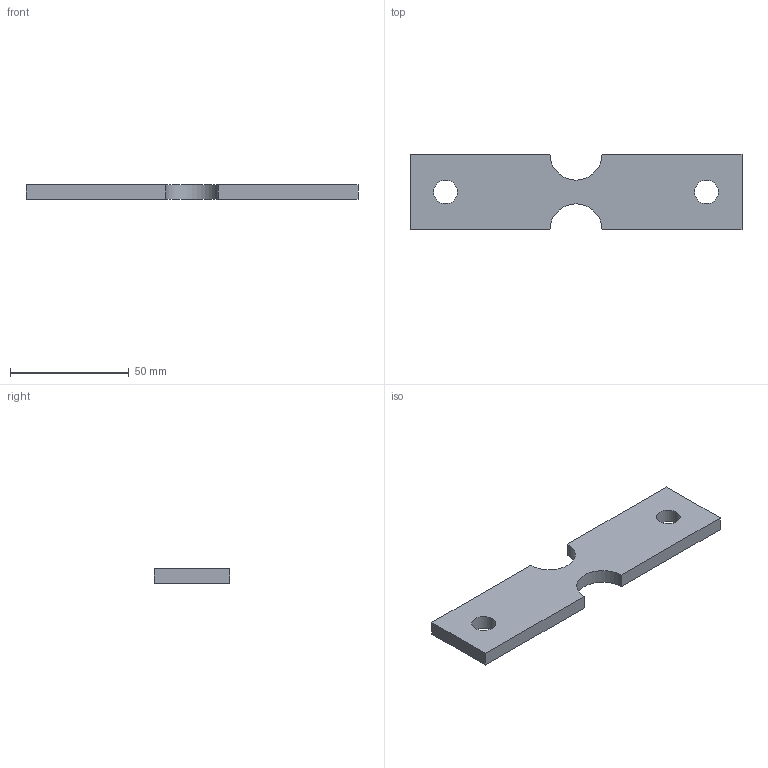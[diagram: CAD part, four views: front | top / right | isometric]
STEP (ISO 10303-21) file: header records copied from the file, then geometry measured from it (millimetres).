
FILE_DESCRIPTION(('FreeCAD Model'),'2;1');
FILE_NAME('Open CASCADE Shape Model','2026-11-03T10:07:26',('FreeCAD'),( 'FreeCAD'),'Open CASCADE STEP processor 7.8','FreeCAD','Unknown');
FILE_SCHEMA(('AUTOMOTIVE_DESIGN { 1 0 10303 214 1 1 1 1 }'));
Length unit declared in the file: millimetre
Products named in the file (1): Open CASCADE STEP translator 7.8 7
Bounding box: 140 x 32 x 6 mm (x, y, z)
Volume: 23656.7 mm3; surface area: 10477.3 mm2
Topology: 1 solids, 1 shells, 12 faces, 30 edges, 20 vertices
Faces by surface type: plane 8, cylinder 4
Full cylindrical faces by diameter (mm): 10 x2
Entity records: 380 total; most frequent: DIRECTION 64, CARTESIAN_POINT 63, ORIENTED_EDGE 60, EDGE_CURVE 30, LINE 22, VECTOR 22, AXIS2_PLACEMENT_3D 21, VERTEX_POINT 20
